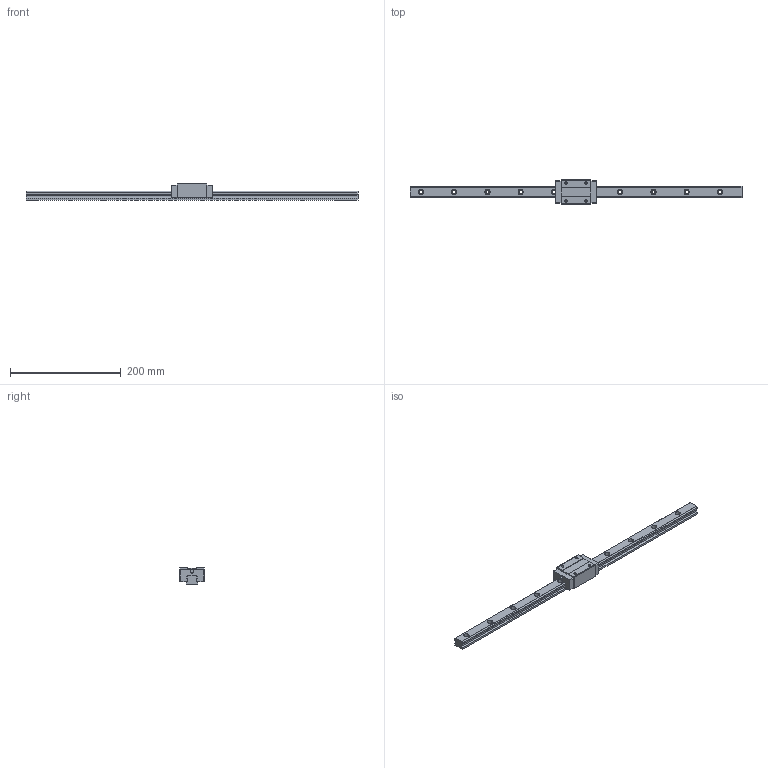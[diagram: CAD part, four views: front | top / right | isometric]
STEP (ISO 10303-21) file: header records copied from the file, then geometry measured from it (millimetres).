
FILE_DESCRIPTION (( 'STEP AP203' ), '1' );
FILE_NAME ('TRH20VN-XNC.STEP', '2024-08-16T06:25:08', ( '' ), ( '' ), 'SwSTEP 2.0', 'SolidWorks 2021', '' );
FILE_SCHEMA (( 'CONFIG_CONTROL_DESIGN' ));
Length unit declared in the file: millimetre
Products named in the file (1): TRH20VN-XNC
Bounding box: 600 x 44 x 30 mm (x, y, z)
Volume: 230768.8 mm3; surface area: 63357.4 mm2
Topology: 1 solids, 1 shells, 182 faces, 492 edges, 318 vertices
Faces by surface type: cylinder 88, plane 78, cone 16
Entity records: 5823 total; most frequent: DIRECTION 1036, CARTESIAN_POINT 985, ORIENTED_EDGE 968, EDGE_CURVE 484, AXIS2_PLACEMENT_3D 369, VERTEX_POINT 318, LINE 298, VECTOR 298
